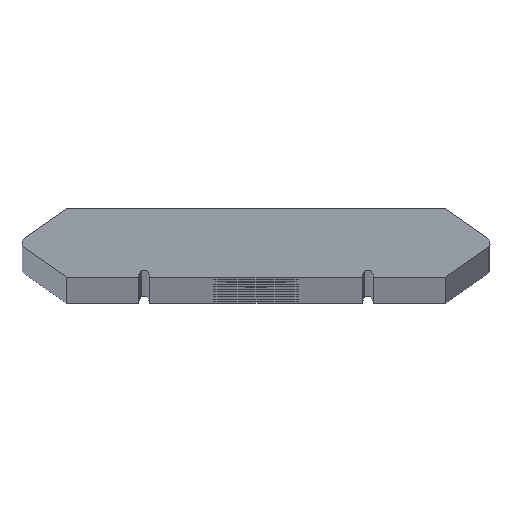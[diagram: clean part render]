
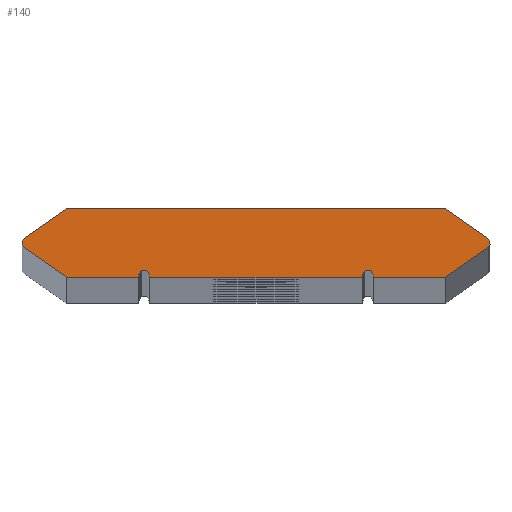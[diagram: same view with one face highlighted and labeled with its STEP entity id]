
A CAD part, top view. The second image highlights one B-rep face of the part: STEP entity #140.
In plain terms, the highlighted planar face has unit normal (0, 0, 1).
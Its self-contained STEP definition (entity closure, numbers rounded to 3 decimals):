
#140=ADVANCED_FACE('',(#352),#353,.F.);
#352=FACE_OUTER_BOUND('',#564,.T.);
#353=PLANE('',#565);
#564=EDGE_LOOP('',(#969,#970,#971,#972,#973,#974,#975,#976,#977,#978,#979,#980,#981,#982,#983,#984));
#565=AXIS2_PLACEMENT_3D('',#985,#986,#987);
#969=ORIENTED_EDGE('',*,*,#1029,.F.);
#970=ORIENTED_EDGE('',*,*,#1009,.F.);
#971=ORIENTED_EDGE('',*,*,#1027,.F.);
#972=ORIENTED_EDGE('',*,*,#1099,.F.);
#973=ORIENTED_EDGE('',*,*,#1005,.F.);
#974=ORIENTED_EDGE('',*,*,#1098,.F.);
#975=ORIENTED_EDGE('',*,*,#1096,.F.);
#976=ORIENTED_EDGE('',*,*,#1086,.F.);
#977=ORIENTED_EDGE('',*,*,#1083,.F.);
#978=ORIENTED_EDGE('',*,*,#1088,.F.);
#979=ORIENTED_EDGE('',*,*,#1090,.F.);
#980=ORIENTED_EDGE('',*,*,#1092,.F.);
#981=ORIENTED_EDGE('',*,*,#1080,.F.);
#982=ORIENTED_EDGE('',*,*,#1093,.F.);
#983=ORIENTED_EDGE('',*,*,#1095,.F.);
#984=ORIENTED_EDGE('',*,*,#1031,.F.);
#985=CARTESIAN_POINT('',(-21.455,0.,0.));
#986=DIRECTION('',(0.,0.,-1.0));
#987=DIRECTION('',(-0.574,-0.819,0.));
#1005=EDGE_CURVE('',#1134,#1135,#1136,.T.);
#1009=EDGE_CURVE('',#1142,#1143,#1144,.T.);
#1027=EDGE_CURVE('',#1176,#1142,#1177,.T.);
#1029=EDGE_CURVE('',#1143,#1179,#1180,.T.);
#1031=EDGE_CURVE('',#1179,#1182,#1183,.T.);
#1080=EDGE_CURVE('',#1279,#1280,#1281,.T.);
#1083=EDGE_CURVE('',#1284,#1285,#1286,.T.);
#1086=EDGE_CURVE('',#1285,#1289,#1290,.T.);
#1088=EDGE_CURVE('',#1292,#1284,#1293,.T.);
#1090=EDGE_CURVE('',#1295,#1292,#1296,.T.);
#1092=EDGE_CURVE('',#1280,#1295,#1298,.T.);
#1093=EDGE_CURVE('',#1299,#1279,#1300,.T.);
#1095=EDGE_CURVE('',#1182,#1299,#1302,.T.);
#1096=EDGE_CURVE('',#1289,#1303,#1304,.T.);
#1098=EDGE_CURVE('',#1303,#1134,#1306,.T.);
#1099=EDGE_CURVE('',#1135,#1176,#1307,.T.);
#1134=VERTEX_POINT('',#1342);
#1135=VERTEX_POINT('',#1343);
#1136=LINE('',#1344,#1345);
#1142=VERTEX_POINT('',#1354);
#1143=VERTEX_POINT('',#1355);
#1144=LINE('',#1356,#1357);
#1176=VERTEX_POINT('',#1402);
#1177=CIRCLE('',#1403,0.5);
#1179=VERTEX_POINT('',#1406);
#1180=LINE('',#1407,#1408);
#1182=VERTEX_POINT('',#1411);
#1183=LINE('',#1412,#1413);
#1279=VERTEX_POINT('',#1510);
#1280=VERTEX_POINT('',#1511);
#1281=LINE('',#1512,#1513);
#1284=VERTEX_POINT('',#1518);
#1285=VERTEX_POINT('',#1519);
#1286=LINE('',#1520,#1521);
#1289=VERTEX_POINT('',#1526);
#1290=LINE('',#1527,#1528);
#1292=VERTEX_POINT('',#1531);
#1293=LINE('',#1532,#1533);
#1295=VERTEX_POINT('',#1536);
#1296=CIRCLE('',#1537,0.545);
#1298=LINE('',#1540,#1541);
#1299=VERTEX_POINT('',#1542);
#1300=LINE('',#1543,#1544);
#1302=CIRCLE('',#1547,0.545);
#1303=VERTEX_POINT('',#1548);
#1304=CIRCLE('',#1549,0.5);
#1306=LINE('',#1552,#1553);
#1307=LINE('',#1554,#1555);
#1342=CARTESIAN_POINT('',(10.0,-3.21,0.));
#1343=CARTESIAN_POINT('',(-10.0,-3.21,0.));
#1344=CARTESIAN_POINT('',(10.0,-3.21,0.));
#1345=VECTOR('',#1607,1.0);
#1354=CARTESIAN_POINT('',(-11.0,-3.01,0.));
#1355=CARTESIAN_POINT('',(-11.0,-3.21,0.));
#1356=CARTESIAN_POINT('',(-11.0,-3.01,0.));
#1357=VECTOR('',#1611,1.0);
#1402=CARTESIAN_POINT('',(-10.0,-3.01,0.));
#1403=AXIS2_PLACEMENT_3D('',#1637,#1638,#1639);
#1406=CARTESIAN_POINT('',(-17.821,-3.21,0.));
#1407=CARTESIAN_POINT('',(-11.0,-3.21,0.));
#1408=VECTOR('',#1641,1.0);
#1411=CARTESIAN_POINT('',(-21.768,-0.446,0.));
#1412=CARTESIAN_POINT('',(-17.821,-3.21,0.));
#1413=VECTOR('',#1643,1.0);
#1510=CARTESIAN_POINT('',(-17.821,3.21,0.));
#1511=CARTESIAN_POINT('',(17.821,3.21,0.));
#1512=CARTESIAN_POINT('',(-17.821,3.21,0.));
#1513=VECTOR('',#1786,1.0);
#1518=CARTESIAN_POINT('',(17.821,-3.21,0.));
#1519=CARTESIAN_POINT('',(11.0,-3.21,0.));
#1520=CARTESIAN_POINT('',(17.821,-3.21,0.));
#1521=VECTOR('',#1789,1.0);
#1526=CARTESIAN_POINT('',(11.0,-3.01,0.));
#1527=CARTESIAN_POINT('',(11.0,-3.21,0.));
#1528=VECTOR('',#1792,1.0);
#1531=CARTESIAN_POINT('',(21.768,-0.446,0.));
#1532=CARTESIAN_POINT('',(21.768,-0.446,0.));
#1533=VECTOR('',#1794,1.0);
#1536=CARTESIAN_POINT('',(21.768,0.446,0.));
#1537=AXIS2_PLACEMENT_3D('',#1796,#1797,#1798);
#1540=CARTESIAN_POINT('',(17.821,3.21,0.));
#1541=VECTOR('',#1800,1.0);
#1542=CARTESIAN_POINT('',(-21.768,0.446,0.));
#1543=CARTESIAN_POINT('',(-21.768,0.446,0.));
#1544=VECTOR('',#1801,1.0);
#1547=AXIS2_PLACEMENT_3D('',#1803,#1804,#1805);
#1548=CARTESIAN_POINT('',(10.0,-3.01,0.));
#1549=AXIS2_PLACEMENT_3D('',#1806,#1807,#1808);
#1552=CARTESIAN_POINT('',(10.0,-3.01,0.));
#1553=VECTOR('',#1810,1.0);
#1554=CARTESIAN_POINT('',(-10.0,-3.21,0.));
#1555=VECTOR('',#1811,1.0);
#1607=DIRECTION('',(-1.0,0.,0.));
#1611=DIRECTION('',(0.,-1.0,0.));
#1637=CARTESIAN_POINT('',(-10.5,-3.01,0.));
#1638=DIRECTION('',(0.,0.,1.0));
#1639=DIRECTION('',(1.0,0.,0.));
#1641=DIRECTION('',(-1.0,0.,0.));
#1643=DIRECTION('',(-0.819,0.574,0.));
#1786=DIRECTION('',(1.0,0.,0.));
#1789=DIRECTION('',(-1.0,0.,0.));
#1792=DIRECTION('',(0.,1.0,0.));
#1794=DIRECTION('',(-0.819,-0.574,0.));
#1796=CARTESIAN_POINT('',(21.455,0.,0.));
#1797=DIRECTION('',(0.,0.,-1.0));
#1798=DIRECTION('',(1.0,0.,0.));
#1800=DIRECTION('',(0.819,-0.574,0.));
#1801=DIRECTION('',(0.819,0.574,0.));
#1803=CARTESIAN_POINT('',(-21.455,0.,0.));
#1804=DIRECTION('',(0.,0.,-1.0));
#1805=DIRECTION('',(1.0,0.,0.));
#1806=CARTESIAN_POINT('',(10.5,-3.01,0.));
#1807=DIRECTION('',(0.,0.,1.0));
#1808=DIRECTION('',(1.0,0.,0.));
#1810=DIRECTION('',(0.,-1.0,0.));
#1811=DIRECTION('',(0.,1.0,0.));
